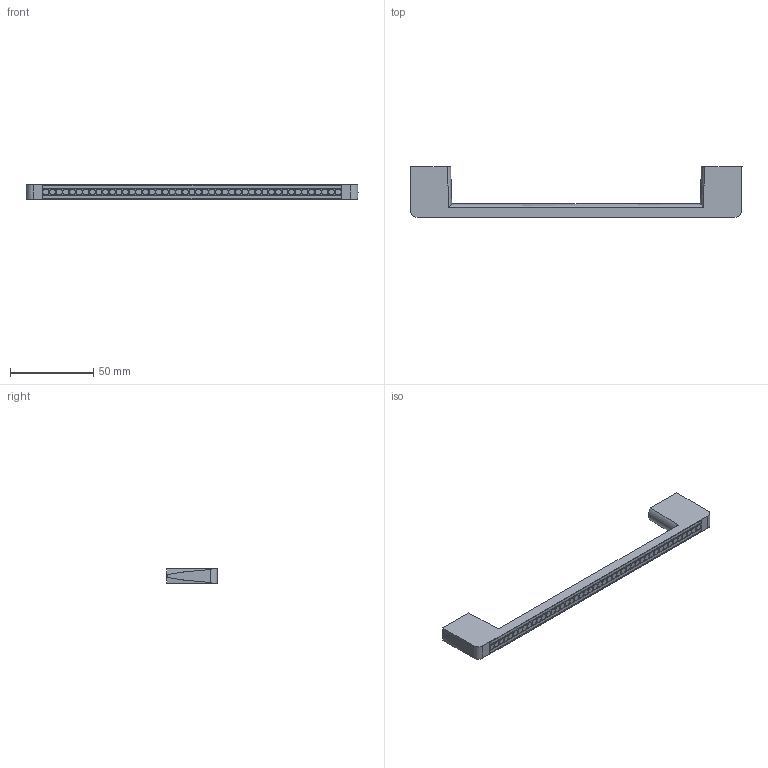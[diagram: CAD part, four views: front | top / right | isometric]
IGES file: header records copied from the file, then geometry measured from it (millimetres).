
Start section: Data from Parasolid IGES Translator 15.0.47, Copyright(c) 2006 Siemens P LM Software. All Rights Reserved.
Global section: file name: 9113677.igs; native system:  By UGS Corp.; preprocessor: XPlus GENERIC/IGES 3.0; author: Noname; organization: Noname; date: 20140122.170622; units: millimetre
Bounding box: 200 x 30.4 x 9 mm (x, y, z)
Surface area: 11456.2 mm2 (no closed solid volume)
Topology: 0 solids, 0 shells, 435 faces, 2579 edges, 2397 vertices
Faces by surface type: extrusion 243, revolution 192
